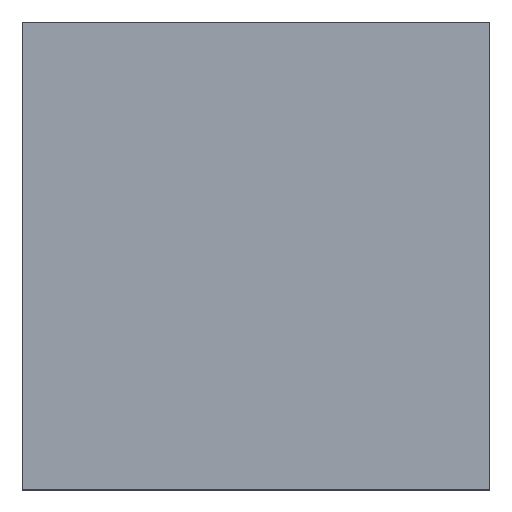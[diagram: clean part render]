
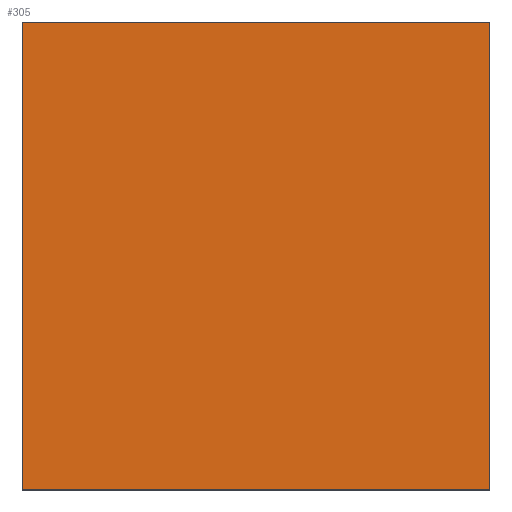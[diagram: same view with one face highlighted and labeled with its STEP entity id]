
A CAD part, top view. The second image highlights one B-rep face of the part: STEP entity #305.
In plain terms, the highlighted planar face has unit normal (0, 0, 1).
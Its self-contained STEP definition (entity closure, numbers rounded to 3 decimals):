
#48=FACE_OUTER_BOUND('',#68,.T.);
#68=EDGE_LOOP('',(#250,#251,#252,#253));
#92=LINE('',#490,#120);
#95=LINE('',#496,#123);
#98=LINE('',#502,#126);
#101=LINE('',#506,#129);
#120=VECTOR('',#412,10.);
#123=VECTOR('',#417,10.);
#126=VECTOR('',#422,10.);
#129=VECTOR('',#427,10.);
#148=VERTEX_POINT('',#487);
#149=VERTEX_POINT('',#489);
#151=VERTEX_POINT('',#495);
#153=VERTEX_POINT('',#501);
#180=EDGE_CURVE('',#149,#148,#92,.T.);
#183=EDGE_CURVE('',#151,#149,#95,.T.);
#186=EDGE_CURVE('',#153,#151,#98,.T.);
#189=EDGE_CURVE('',#148,#153,#101,.T.);
#250=ORIENTED_EDGE('',*,*,#189,.T.);
#251=ORIENTED_EDGE('',*,*,#186,.T.);
#252=ORIENTED_EDGE('',*,*,#183,.T.);
#253=ORIENTED_EDGE('',*,*,#180,.T.);
#272=PLANE('',#352);
#305=ADVANCED_FACE('',(#48),#272,.T.);
#352=AXIS2_PLACEMENT_3D('',#507,#428,#429);
#412=DIRECTION('',(1.,0.,0.));
#417=DIRECTION('',(0.,-1.,0.));
#422=DIRECTION('',(-1.,0.,0.));
#427=DIRECTION('',(0.,1.,0.));
#428=DIRECTION('center_axis',(0.,0.,1.));
#429=DIRECTION('ref_axis',(1.,0.,0.));
#487=CARTESIAN_POINT('',(125.,-125.,120.));
#489=CARTESIAN_POINT('',(-125.,-125.,120.));
#490=CARTESIAN_POINT('',(-125.,-125.,120.));
#495=CARTESIAN_POINT('',(-125.,125.,120.));
#496=CARTESIAN_POINT('',(-125.,125.,120.));
#501=CARTESIAN_POINT('',(125.,125.,120.));
#502=CARTESIAN_POINT('',(125.,125.,120.));
#506=CARTESIAN_POINT('',(125.,-125.,120.));
#507=CARTESIAN_POINT('Origin',(0.,0.,
120.));
